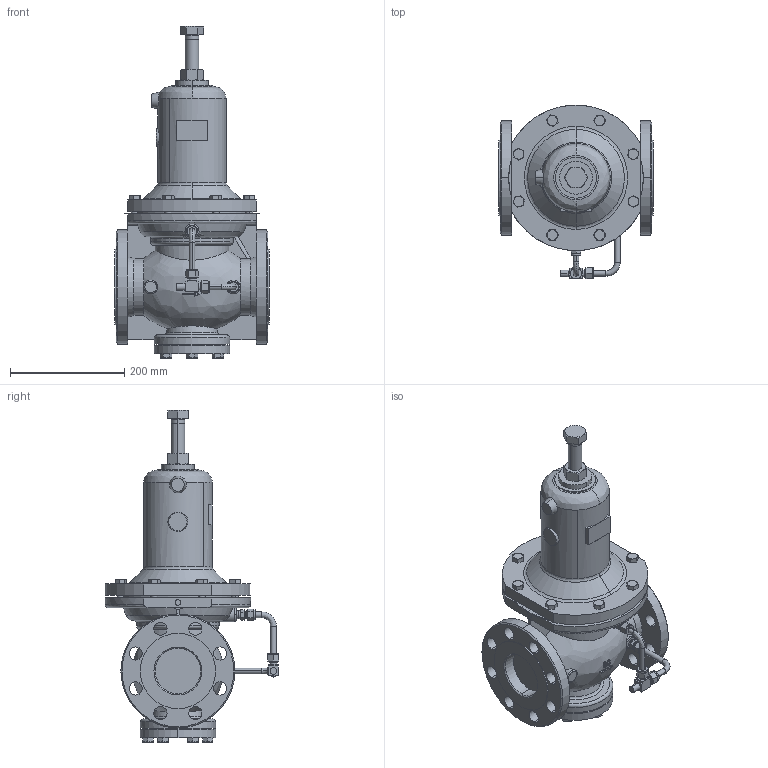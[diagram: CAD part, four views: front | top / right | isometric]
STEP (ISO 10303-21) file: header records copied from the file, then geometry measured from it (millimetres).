
FILE_DESCRIPTION( (''), '2;1');
FILE_NAME ('PC1276.13516.GD-200H 80A_24588.stp','2026-01-15T16:47:46',(''),(''),'spGate 20.6.3 (****-****-****-****)','','');
FILE_SCHEMA (('AUTOMOTIVE_DESIGN'));
Length unit declared in the file: millimetre
Products named in the file (17): Assembly; 80A本体; GD200(6580)保護筒; CP_''_JIS B 1180 全ネジ六角ボルト''_17166; CP_''_JIS B 1181 六角ナット 2種 上 ''_700; B-600-1-4RT; SS-10M0-3; PC1276-prt6; PC1276-prt7; PC1276-prt8; PC1276-prt9; 検出管A65_M5; PC1276-prt11; PC1276-prt12; 検出管B65_M5; CP_''_JIS B 1180 全ネジ六角ボ''_(1)_17166; CP_''_JIS B 1180 全ネジ六角ボ''_(2)_17166
Assembly tree (29 placements, depth 2):
  Assembly
    80A本体
    GD200(6580)保護筒
    CP_''_JIS B 1180 全ネジ六角ボルト''_17166
    CP_''_JIS B 1181 六角ナット 2種 上 ''_700
    B-600-1-4RT  x2
    SS-10M0-3
    PC1276-prt6
    PC1276-prt7
    PC1276-prt8
    PC1276-prt9
    検出管A65_M5
    PC1276-prt11
    PC1276-prt12
    検出管B65_M5
    CP_''_JIS B 1180 全ネジ六角ボ''_(1)_17166  x6
    CP_''_JIS B 1180 全ネジ六角ボ''_(2)_17166  x8
Bounding box: 270 x 304.33 x 582 mm (x, y, z)
Volume: 10097834.1 mm3; surface area: 691564 mm2
Topology: 23 solids, 23 shells, 924 faces, 2071 edges, 1286 vertices
Faces by surface type: plane 332, bspline 328, cylinder 264
Entity records: 32412 total; most frequent: CARTESIAN_POINT 9220, ORIENTED_EDGE 2670, DIRECTION 2228, COLOUR_RGB 1927, PRESENTATION_STYLE_ASSIGNMENT 1927, STYLED_ITEM 1927, DRAUGHTING_PRE_DEFINED_CURVE_FONT 1341, CURVE_STYLE 1341
